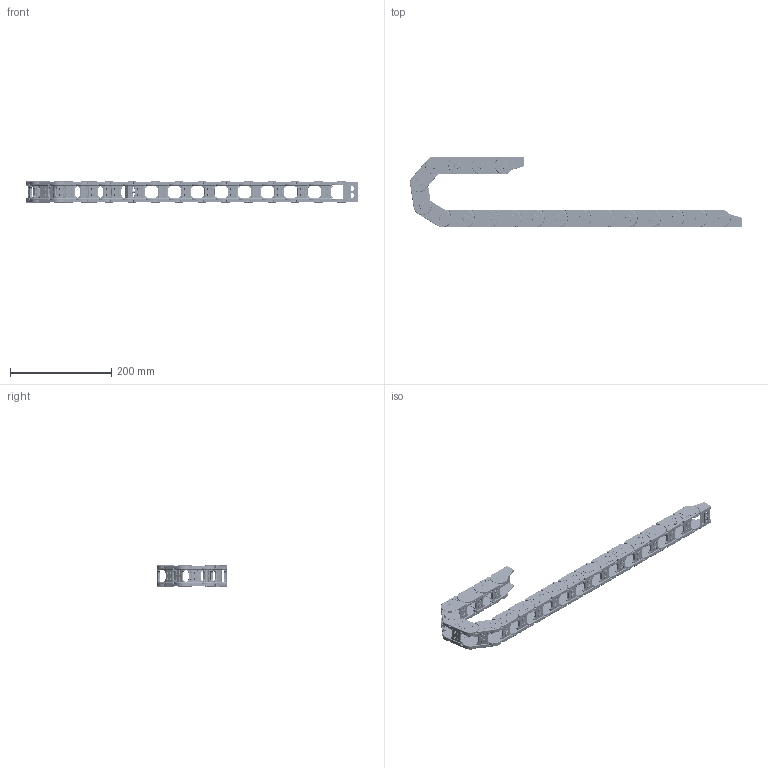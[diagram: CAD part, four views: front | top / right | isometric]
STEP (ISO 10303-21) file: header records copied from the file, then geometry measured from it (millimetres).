
FILE_DESCRIPTION (( 'STEP AP214' ), '1' );
FILE_NAME ('J25Q.2.25S.STEP', '2019-01-09T03:19:36', ( 'Sky123.Org' ), ( 'Sky123.Org' ), 'SwSTEP 2.0', 'SolidWorks 2017', '' );
FILE_SCHEMA (( 'AUTOMOTIVE_DESIGN' ));
Length unit declared in the file: millimetre
Products named in the file (7): J25Q.2.25S; G25-R55翋极1-楷俋; G25-R55翋极2-楷俋; G25X25-結え-3D; 5-G25X25-1; G25X25-XJT-NF; G25X25-XJT-WF
Assembly tree (24 placements, depth 3):
  J25Q.2.25S
    5-G25X25-1  x18
      G25-R55翋极1-楷俋
      G25-R55翋极2-楷俋
      G25X25-結え-3D
    G25X25-XJT-NF
    G25X25-XJT-WF
Bounding box: 656.29 x 139.76 x 41.6 mm (x, y, z)
Volume: 570405.1 mm3; surface area: 340510.6 mm2
Topology: 74 solids, 74 shells, 17157 faces, 47345 edges, 31024 vertices
Faces by surface type: plane 9406, bspline 3864, cylinder 3534, torus 341, cone 12
Entity records: 33415 total; most frequent: CARTESIAN_POINT 12461, ORIENTED_EDGE 4552, DIRECTION 3948, EDGE_CURVE 2276, VERTEX_POINT 1469, VECTOR 1414, LINE 1414, AXIS2_PLACEMENT_3D 1267
